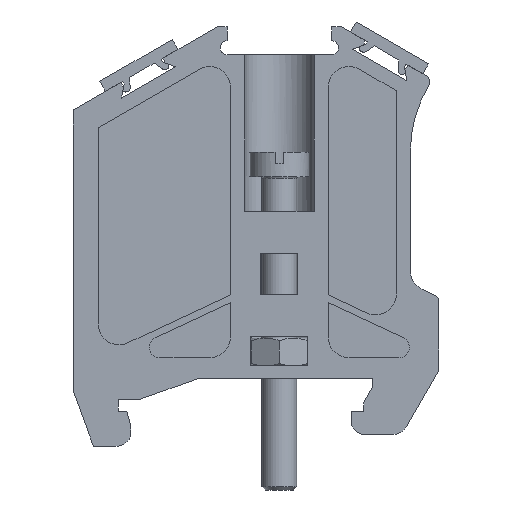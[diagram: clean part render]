
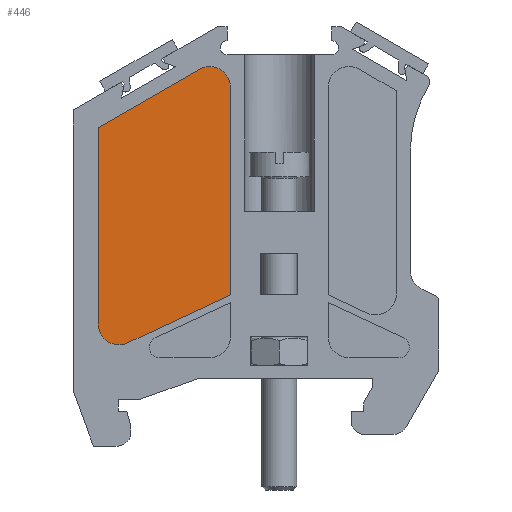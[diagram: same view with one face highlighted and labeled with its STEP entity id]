
A CAD part, front view. The second image highlights one B-rep face of the part: STEP entity #446.
In plain terms, the highlighted planar face has unit normal (0, -1, 0).
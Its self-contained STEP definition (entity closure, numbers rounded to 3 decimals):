
#446 = ADVANCED_FACE( '', ( #970 ), #971, .F. );
#970 = FACE_OUTER_BOUND( '', #1613, .T. );
#971 = PLANE( '', #1614 );
#1613 = EDGE_LOOP( '', ( #2667, #2668, #2669, #2670, #2671, #2672 ) );
#1614 = AXIS2_PLACEMENT_3D( '', #2673, #2674, #2675 );
#2667 = ORIENTED_EDGE( '', *, *, #4302, .F. );
#2668 = ORIENTED_EDGE( '', *, *, #4303, .F. );
#2669 = ORIENTED_EDGE( '', *, *, #4304, .F. );
#2670 = ORIENTED_EDGE( '', *, *, #4070, .F. );
#2671 = ORIENTED_EDGE( '', *, *, #4305, .F. );
#2672 = ORIENTED_EDGE( '', *, *, #4015, .F. );
#2673 = CARTESIAN_POINT( '', ( -10., 5., 18.783 ) );
#2674 = DIRECTION( '', ( 0., 1., 0. ) );
#2675 = DIRECTION( '', ( 0., 0., 1. ) );
#4015 = EDGE_CURVE( '', #4815, #4810, #4817, .T. );
#4070 = EDGE_CURVE( '', #4911, #4912, #4913, .T. );
#4302 = EDGE_CURVE( '', #5290, #4815, #5291, .T. );
#4303 = EDGE_CURVE( '', #5292, #5290, #5293, .T. );
#4304 = EDGE_CURVE( '', #4912, #5292, #5294, .T. );
#4305 = EDGE_CURVE( '', #4810, #4911, #5295, .T. );
#4810 = VERTEX_POINT( '', #5949 );
#4815 = VERTEX_POINT( '', #5955 );
#4817 = CIRCLE( '', #5958, 3. );
#4911 = VERTEX_POINT( '', #6090 );
#4912 = VERTEX_POINT( '', #6091 );
#4913 = LINE( '', #6092, #6093 );
#5290 = VERTEX_POINT( '', #6692 );
#5291 = LINE( '', #6693, #6694 );
#5292 = VERTEX_POINT( '', #6695 );
#5293 = LINE( '', #6696, #6697 );
#5294 = CIRCLE( '', #6698, 3. );
#5295 = LINE( '', #6699, #6700 );
#5949 = CARTESIAN_POINT( '', ( -7., 5., 18.783 ) );
#5955 = CARTESIAN_POINT( '', ( -11.5, 5., 21.381 ) );
#5958 = AXIS2_PLACEMENT_3D( '', #7428, #7429, #7430 );
#6090 = CARTESIAN_POINT( '', ( -7., 5., -11. ) );
#6091 = CARTESIAN_POINT( '', ( -21.732, 5., -17.87 ) );
#6092 = CARTESIAN_POINT( '', ( -7., 5., -11. ) );
#6093 = VECTOR( '', #7490, 1000. );
#6692 = CARTESIAN_POINT( '', ( -26., 5., 13.01 ) );
#6693 = CARTESIAN_POINT( '', ( -26., 5., 13.01 ) );
#6694 = VECTOR( '', #7748, 1000. );
#6695 = CARTESIAN_POINT( '', ( -26., 5., -15.151 ) );
#6696 = CARTESIAN_POINT( '', ( -26., 5., 13.01 ) );
#6697 = VECTOR( '', #7749, 1000. );
#6698 = AXIS2_PLACEMENT_3D( '', #7750, #7751, #7752 );
#6699 = CARTESIAN_POINT( '', ( -7., 5., 18.783 ) );
#6700 = VECTOR( '', #7753, 1000. );
#7428 = CARTESIAN_POINT( '', ( -10., 5., 18.783 ) );
#7429 = DIRECTION( '', ( 0., 1., 0. ) );
#7430 = DIRECTION( '', ( -1., 0., 0. ) );
#7490 = DIRECTION( '', ( -0.906, 0., -0.423 ) );
#7748 = DIRECTION( '', ( 0.866, 0., 0.5 ) );
#7749 = DIRECTION( '', ( 0., 0., 1. ) );
#7750 = CARTESIAN_POINT( '', ( -23., 5., -15.151 ) );
#7751 = DIRECTION( '', ( 0., 1., 0. ) );
#7752 = DIRECTION( '', ( 1., 0., 0. ) );
#7753 = DIRECTION( '', ( 0., 0., -1. ) );
